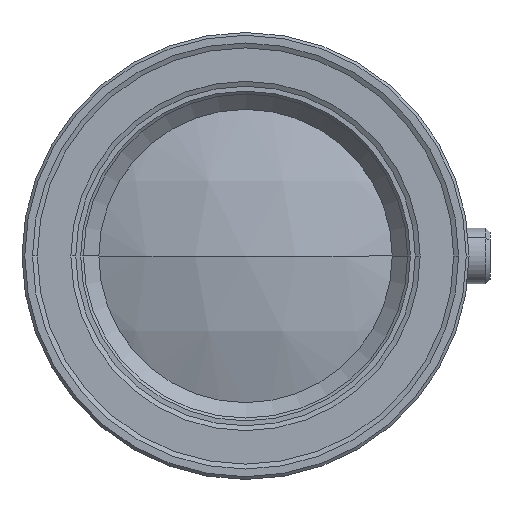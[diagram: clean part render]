
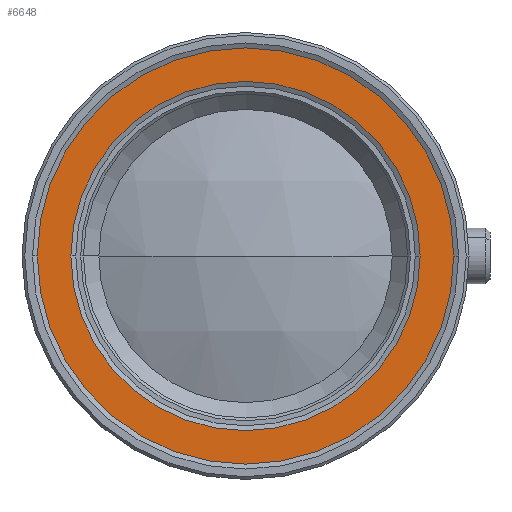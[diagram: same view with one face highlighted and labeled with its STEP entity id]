
A CAD part, left-side view. The second image highlights one B-rep face of the part: STEP entity #6648.
In plain terms, the highlighted planar face has unit normal (-1, 0, 0).
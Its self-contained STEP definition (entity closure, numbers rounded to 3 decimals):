
#153 = EDGE_LOOP ( 'NONE', ( #7295, #2240 ) ) ;
#386 = DIRECTION ( 'NONE',  ( 0., -1., 0. ) ) ;
#453 = ORIENTED_EDGE ( 'NONE', *, *, #7328, .F. ) ;
#568 = DIRECTION ( 'NONE',  ( 1., 0., 0. ) ) ;
#614 = EDGE_LOOP ( 'NONE', ( #9981, #453 ) ) ;
#961 = CIRCLE ( 'NONE', #7039, 15.25 ) ;
#1207 = CIRCLE ( 'NONE', #5239, 12.5 ) ;
#1291 = EDGE_CURVE ( 'NONE', #3868, #2786, #1207, .T. ) ;
#1905 = EDGE_CURVE ( 'NONE', #6390, #7495, #5088, .T. ) ;
#1931 = FACE_BOUND ( 'NONE', #614, .T. ) ;
#2240 = ORIENTED_EDGE ( 'NONE', *, *, #1905, .T. ) ;
#2786 = VERTEX_POINT ( 'NONE', #3708 ) ;
#2903 = CARTESIAN_POINT ( 'NONE',  ( -66.483, 0., 0. ) ) ;
#2958 = DIRECTION ( 'NONE',  ( 0., -1., 0. ) ) ;
#3035 = CARTESIAN_POINT ( 'NONE',  ( -66.483, 12.5, 0. ) ) ;
#3357 = CARTESIAN_POINT ( 'NONE',  ( -66.483, 15.25, 0. ) ) ;
#3708 = CARTESIAN_POINT ( 'NONE',  ( -66.483, 12.5, 0. ) ) ;
#3819 = AXIS2_PLACEMENT_3D ( 'NONE', #4941, #4018, #7254 ) ;
#3868 = VERTEX_POINT ( 'NONE', #9180 ) ;
#4018 = DIRECTION ( 'NONE',  ( -1., 0., 0. ) ) ;
#4643 = CARTESIAN_POINT ( 'NONE',  ( -66.483, 0., 0. ) ) ;
#4941 = CARTESIAN_POINT ( 'NONE',  ( -66.483, 0., 0. ) ) ;
#5043 = CARTESIAN_POINT ( 'NONE',  ( -66.483, -15.25, 0. ) ) ;
#5088 = CIRCLE ( 'NONE', #6281, 15.25 ) ;
#5239 = AXIS2_PLACEMENT_3D ( 'NONE', #4643, #8524, #6110 ) ;
#5814 = AXIS2_PLACEMENT_3D ( 'NONE', #3035, #568, #6239 ) ;
#6110 = DIRECTION ( 'NONE',  ( 0., -1., 0. ) ) ;
#6133 = PLANE ( 'NONE',  #5814 ) ;
#6239 = DIRECTION ( 'NONE',  ( 0., 1., 0. ) ) ;
#6281 = AXIS2_PLACEMENT_3D ( 'NONE', #8420, #7689, #386 ) ;
#6390 = VERTEX_POINT ( 'NONE', #3357 ) ;
#6648 = ADVANCED_FACE ( 'NONE', ( #1931, #7647 ), #6133, .F. ) ;
#7039 = AXIS2_PLACEMENT_3D ( 'NONE', #2903, #7718, #2958 ) ;
#7254 = DIRECTION ( 'NONE',  ( 0., -1., 0. ) ) ;
#7295 = ORIENTED_EDGE ( 'NONE', *, *, #7916, .T. ) ;
#7328 = EDGE_CURVE ( 'NONE', #2786, #3868, #8041, .T. ) ;
#7495 = VERTEX_POINT ( 'NONE', #5043 ) ;
#7647 = FACE_OUTER_BOUND ( 'NONE', #153, .T. ) ;
#7689 = DIRECTION ( 'NONE',  ( -1., 0., 0. ) ) ;
#7718 = DIRECTION ( 'NONE',  ( -1., 0., 0. ) ) ;
#7916 = EDGE_CURVE ( 'NONE', #7495, #6390, #961, .T. ) ;
#8041 = CIRCLE ( 'NONE', #3819, 12.5 ) ;
#8420 = CARTESIAN_POINT ( 'NONE',  ( -66.483, 0., 0. ) ) ;
#8524 = DIRECTION ( 'NONE',  ( -1., 0., 0. ) ) ;
#9180 = CARTESIAN_POINT ( 'NONE',  ( -66.483, -12.5, 0. ) ) ;
#9981 = ORIENTED_EDGE ( 'NONE', *, *, #1291, .F. ) ;
